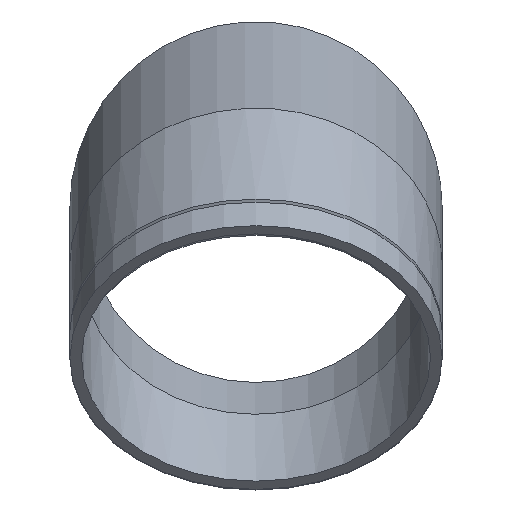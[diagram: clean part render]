
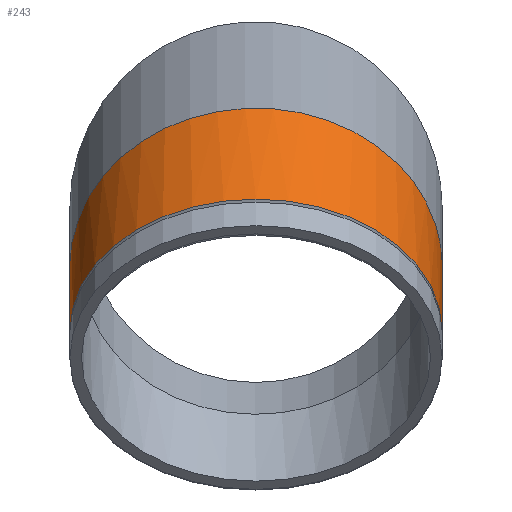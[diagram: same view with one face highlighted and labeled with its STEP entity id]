
A CAD part, top view. The second image highlights one B-rep face of the part: STEP entity #243.
In plain terms, the highlighted cylindrical face has radius 157.5 mm (diameter 315 mm), a full revolution.
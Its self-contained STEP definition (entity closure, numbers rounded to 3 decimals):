
#21=ELLIPSE($,#281,160.586,157.5);
#22=ELLIPSE($,#282,160.586,157.5);
#36=CYLINDRICAL_SURFACE($,#280,157.5);
#54=FACE_BOUND($,#100,.T.);
#72=FACE_OUTER_BOUND($,#99,.T.);
#99=EDGE_LOOP($,(#200));
#100=EDGE_LOOP($,(#201,#202));
#120=CIRCLE($,#270,157.5);
#134=VERTEX_POINT($,#414);
#141=VERTEX_POINT($,#432);
#142=VERTEX_POINT($,#433);
#160=EDGE_CURVE($,#134,#134,#120,.T.);
#167=EDGE_CURVE($,#141,#142,#21,.T.);
#168=EDGE_CURVE($,#142,#141,#22,.T.);
#200=ORIENTED_EDGE($,*,*,#160,.T.);
#201=ORIENTED_EDGE($,*,*,#167,.F.);
#202=ORIENTED_EDGE($,*,*,#168,.F.);
#243=ADVANCED_FACE($,(#72,#54),#36,.T.);
#270=AXIS2_PLACEMENT_3D($,#415,#332,#333);
#280=AXIS2_PLACEMENT_3D($,#431,#352,#353);
#281=AXIS2_PLACEMENT_3D($,#434,#354,#355);
#282=AXIS2_PLACEMENT_3D($,#435,#356,#357);
#332=DIRECTION('center_axis',(0.,0.707,-0.707));
#333=DIRECTION('ref_axis',(1.,0.,0.));
#352=DIRECTION('center_axis',(0.,0.707,-0.707));
#353=DIRECTION('ref_axis',(1.,0.,0.));
#354=DIRECTION('center_axis',(0.,0.556,
-0.831));
#355=DIRECTION('ref_axis',(0.,-0.831,-0.556));
#356=DIRECTION('center_axis',(0.,0.556,
-0.831));
#357=DIRECTION('ref_axis',(0.,-0.831,-0.556));
#414=CARTESIAN_POINT('',(0.,6.91,350.5));
#415=CARTESIAN_POINT('Origin',(0.,-104.459,239.13));
#431=CARTESIAN_POINT('Origin',(0.,-126.958,
261.63));
#432=CARTESIAN_POINT('',(-157.5,-49.497,184.168));
#433=CARTESIAN_POINT('',(157.5,-49.497,184.168));
#434=CARTESIAN_POINT('Origin',(0.,-49.497,184.168));
#435=CARTESIAN_POINT('Origin',(0.,-49.497,184.168));
